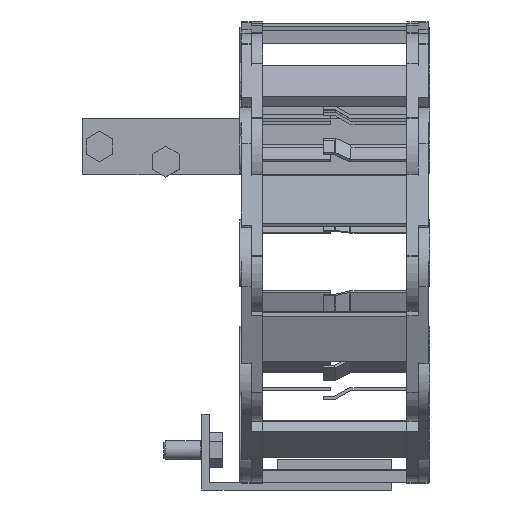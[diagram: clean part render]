
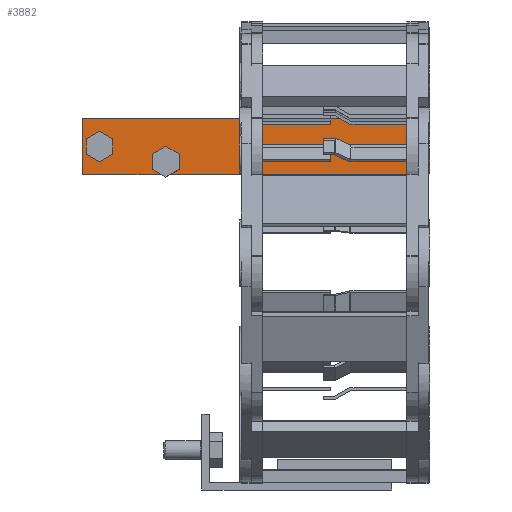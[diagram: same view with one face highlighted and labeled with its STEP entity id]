
A CAD part, left-side view. The second image highlights one B-rep face of the part: STEP entity #3882.
In plain terms, the highlighted planar face has unit normal (-1, 0, 0).
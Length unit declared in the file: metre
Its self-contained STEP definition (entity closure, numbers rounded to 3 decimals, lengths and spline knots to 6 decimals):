
#3882 = ADVANCED_FACE( '', ( #8130, #8131 ), #8132, .F. );
#8130 = FACE_OUTER_BOUND( '', #12796, .T. );
#8131 = FACE_BOUND( '', #12797, .T. );
#8132 = PLANE( '', #12798 );
#12796 = EDGE_LOOP( '', ( #24600, #24601, #24602, #24603, #24604, #24605, #24606, #24607, #24608, #24609, #24610, #24611, #24612 ) );
#12797 = EDGE_LOOP( '', ( #24613, #24614, #24615, #24616, #24617, #24618 ) );
#12798 = AXIS2_PLACEMENT_3D( '', #24619, #24620, #24621 );
#24600 = ORIENTED_EDGE( '', *, *, #29552, .F. );
#24601 = ORIENTED_EDGE( '', *, *, #28814, .F. );
#24602 = ORIENTED_EDGE( '', *, *, #33050, .F. );
#24603 = ORIENTED_EDGE( '', *, *, #28721, .F. );
#24604 = ORIENTED_EDGE( '', *, *, #32338, .F. );
#24605 = ORIENTED_EDGE( '', *, *, #33051, .F. );
#24606 = ORIENTED_EDGE( '', *, *, #33052, .T. );
#24607 = ORIENTED_EDGE( '', *, *, #33053, .T. );
#24608 = ORIENTED_EDGE( '', *, *, #32913, .T. );
#24609 = ORIENTED_EDGE( '', *, *, #32349, .F. );
#24610 = ORIENTED_EDGE( '', *, *, #30315, .F. );
#24611 = ORIENTED_EDGE( '', *, *, #33054, .F. );
#24612 = ORIENTED_EDGE( '', *, *, #33055, .T. );
#24613 = ORIENTED_EDGE( '', *, *, #33056, .F. );
#24614 = ORIENTED_EDGE( '', *, *, #33057, .F. );
#24615 = ORIENTED_EDGE( '', *, *, #28178, .F. );
#24616 = ORIENTED_EDGE( '', *, *, #32992, .F. );
#24617 = ORIENTED_EDGE( '', *, *, #31642, .F. );
#24618 = ORIENTED_EDGE( '', *, *, #31330, .F. );
#24619 = CARTESIAN_POINT( '', ( 0.0755, 0.0855, 0.0685 ) );
#24620 = DIRECTION( '', ( 1., 0., 0. ) );
#24621 = DIRECTION( '', ( 0., 0., -1. ) );
#28178 = EDGE_CURVE( '', #33882, #33883, #33884, .T. );
#28721 = EDGE_CURVE( '', #34866, #34867, #34868, .T. );
#28814 = EDGE_CURVE( '', #35031, #35032, #35033, .T. );
#29552 = EDGE_CURVE( '', #35032, #36322, #36323, .T. );
#30315 = EDGE_CURVE( '', #37564, #37565, #37566, .T. );
#31330 = EDGE_CURVE( '', #39114, #39115, #39116, .T. );
#31642 = EDGE_CURVE( '', #39115, #39555, #39556, .T. );
#32338 = EDGE_CURVE( '', #40496, #34866, #40497, .T. );
#32349 = EDGE_CURVE( '', #37565, #40510, #40511, .T. );
#32913 = EDGE_CURVE( '', #41197, #40510, #41198, .T. );
#32992 = EDGE_CURVE( '', #39555, #33882, #41289, .T. );
#33050 = EDGE_CURVE( '', #34867, #35031, #41354, .T. );
#33051 = EDGE_CURVE( '', #41355, #40496, #41356, .T. );
#33052 = EDGE_CURVE( '', #41355, #41357, #41358, .T. );
#33053 = EDGE_CURVE( '', #41357, #41197, #41359, .F. );
#33054 = EDGE_CURVE( '', #41360, #37564, #41361, .T. );
#33055 = EDGE_CURVE( '', #41360, #36322, #41362, .T. );
#33056 = EDGE_CURVE( '', #41363, #39114, #41364, .T. );
#33057 = EDGE_CURVE( '', #33883, #41363, #41365, .T. );
#33882 = VERTEX_POINT( '', #42309 );
#33883 = VERTEX_POINT( '', #42310 );
#33884 = LINE( '', #42311, #42312 );
#34866 = VERTEX_POINT( '', #43687 );
#34867 = VERTEX_POINT( '', #43688 );
#34868 = LINE( '', #43689, #43690 );
#35031 = VERTEX_POINT( '', #43906 );
#35032 = VERTEX_POINT( '', #43907 );
#35033 = LINE( '', #43908, #43909 );
#36322 = VERTEX_POINT( '', #45650 );
#36323 = LINE( '', #45651, #45652 );
#37564 = VERTEX_POINT( '', #47370 );
#37565 = VERTEX_POINT( '', #47371 );
#37566 = LINE( '', #47372, #47373 );
#39114 = VERTEX_POINT( '', #49557 );
#39115 = VERTEX_POINT( '', #49558 );
#39116 = LINE( '', #49559, #49560 );
#39555 = VERTEX_POINT( '', #50167 );
#39556 = LINE( '', #50168, #50169 );
#40496 = VERTEX_POINT( '', #51530 );
#40497 = LINE( '', #51531, #51532 );
#40510 = VERTEX_POINT( '', #51546 );
#40511 = LINE( '', #51547, #51548 );
#41197 = VERTEX_POINT( '', #52539 );
#41198 = LINE( '', #52540, #52541 );
#41289 = LINE( '', #52663, #52664 );
#41354 = LINE( '', #52757, #52758 );
#41355 = VERTEX_POINT( '', #52759 );
#41356 = LINE( '', #52760, #52761 );
#41357 = VERTEX_POINT( '', #52762 );
#41358 = LINE( '', #52763, #52764 );
#41359 = LINE( '', #52765, #52766 );
#41360 = VERTEX_POINT( '', #52767 );
#41361 = LINE( '', #52768, #52769 );
#41362 = LINE( '', #52770, #52771 );
#41363 = VERTEX_POINT( '', #52772 );
#41364 = LINE( '', #52773, #52774 );
#41365 = LINE( '', #52775, #52776 );
#42309 = CARTESIAN_POINT( '', ( 0.0755, 0.0845, 0.073979 ) );
#42310 = CARTESIAN_POINT( '', ( 0.0755, 0.081, 0.071959 ) );
#42311 = CARTESIAN_POINT( '', ( 0.0755, 0.0845, 0.073979 ) );
#42312 = VECTOR( '', #53780, 1. );
#43687 = CARTESIAN_POINT( '', ( 0.0755, 0.06, 0.074021 ) );
#43688 = CARTESIAN_POINT( '', ( 0.0755, 0.0635, 0.076041 ) );
#43689 = CARTESIAN_POINT( '', ( 0.0755, 0.06, 0.074021 ) );
#43690 = VECTOR( '', #54429, 1. );
#43906 = CARTESIAN_POINT( '', ( 0.0755, 0.067, 0.074021 ) );
#43907 = CARTESIAN_POINT( '', ( 0.0755, 0.067, 0.069979 ) );
#43908 = CARTESIAN_POINT( '', ( 0.0755, 0.067, 0.074021 ) );
#43909 = VECTOR( '', #54555, 1. );
#45650 = CARTESIAN_POINT( '', ( 0.0755, 0.064438, 0.0685 ) );
#45651 = CARTESIAN_POINT( '', ( 0.0755, 0.067, 0.069979 ) );
#45652 = VECTOR( '', #55494, 1. );
#47370 = CARTESIAN_POINT( '', ( 0.0755, 0.0855, 0.0835 ) );
#47371 = CARTESIAN_POINT( '', ( 0.0755, 0.044, 0.0835 ) );
#47372 = CARTESIAN_POINT( '', ( 0.0755, 0.0855, 0.0835 ) );
#47373 = VECTOR( '', #56392, 1. );
#49557 = CARTESIAN_POINT( '', ( 0.0755, 0.0775, 0.078021 ) );
#49558 = CARTESIAN_POINT( '', ( 0.0755, 0.081, 0.080041 ) );
#49559 = CARTESIAN_POINT( '', ( 0.0755, 0.0775, 0.078021 ) );
#49560 = VECTOR( '', #57527, 1. );
#50167 = CARTESIAN_POINT( '', ( 0.0755, 0.0845, 0.078021 ) );
#50168 = CARTESIAN_POINT( '', ( 0.0755, 0.081, 0.080041 ) );
#50169 = VECTOR( '', #57915, 1. );
#51530 = CARTESIAN_POINT( '', ( 0.0755, 0.06, 0.069979 ) );
#51531 = CARTESIAN_POINT( '', ( 0.0755, 0.06, 0.069979 ) );
#51532 = VECTOR( '', #58667, 1. );
#51546 = CARTESIAN_POINT( '', ( 0.0755, -0.006, 0.0835 ) );
#51547 = CARTESIAN_POINT( '', ( 0.0755, 0.0855, 0.0835 ) );
#51548 = VECTOR( '', #58684, 1. );
#52539 = CARTESIAN_POINT( '', ( 0.0755, -0.006, 0.0735 ) );
#52540 = CARTESIAN_POINT( '', ( 0.0755, -0.006, 0.0685 ) );
#52541 = VECTOR( '', #59245, 1. );
#52663 = CARTESIAN_POINT( '', ( 0.0755, 0.0845, 0.078021 ) );
#52664 = VECTOR( '', #59319, 1. );
#52757 = CARTESIAN_POINT( '', ( 0.0755, 0.0635, 0.076041 ) );
#52758 = VECTOR( '', #59366, 1. );
#52759 = CARTESIAN_POINT( '', ( 0.0755, 0.062562, 0.0685 ) );
#52760 = CARTESIAN_POINT( '', ( 0.0755, 0.0635, 0.067959 ) );
#52761 = VECTOR( '', #59367, 1. );
#52762 = CARTESIAN_POINT( '', ( 0.0755, -0.001, 0.0685 ) );
#52763 = CARTESIAN_POINT( '', ( 0.0755, 0.0855, 0.0685 ) );
#52764 = VECTOR( '', #59368, 1. );
#52765 = CARTESIAN_POINT( '', ( 0.0755, -0.001, 0.0685 ) );
#52766 = VECTOR( '', #59369, 1. );
#52767 = CARTESIAN_POINT( '', ( 0.0755, 0.0855, 0.0685 ) );
#52768 = CARTESIAN_POINT( '', ( 0.0755, 0.0855, 0.0685 ) );
#52769 = VECTOR( '', #59370, 1. );
#52770 = CARTESIAN_POINT( '', ( 0.0755, 0.0855, 0.0685 ) );
#52771 = VECTOR( '', #59371, 1. );
#52772 = CARTESIAN_POINT( '', ( 0.0755, 0.0775, 0.073979 ) );
#52773 = CARTESIAN_POINT( '', ( 0.0755, 0.0775, 0.073979 ) );
#52774 = VECTOR( '', #59372, 1. );
#52775 = CARTESIAN_POINT( '', ( 0.0755, 0.081, 0.071959 ) );
#52776 = VECTOR( '', #59373, 1. );
#53780 = DIRECTION( '', ( 0., -0.866, -0.5 ) );
#54429 = DIRECTION( '', ( 0., 0.866, 0.5 ) );
#54555 = DIRECTION( '', ( 0., 0., -1. ) );
#55494 = DIRECTION( '', ( 0., -0.866, -0.5 ) );
#56392 = DIRECTION( '', ( 0., -1., 0. ) );
#57527 = DIRECTION( '', ( 0., 0.866, 0.5 ) );
#57915 = DIRECTION( '', ( 0., 0.866, -0.5 ) );
#58667 = DIRECTION( '', ( 0., 0., 1. ) );
#58684 = DIRECTION( '', ( 0., -1., 0. ) );
#59245 = DIRECTION( '', ( 0., 0., 1. ) );
#59319 = DIRECTION( '', ( 0., 0., -1. ) );
#59366 = DIRECTION( '', ( 0., 0.866, -0.5 ) );
#59367 = DIRECTION( '', ( 0., -0.866, 0.5 ) );
#59368 = DIRECTION( '', ( 0., -1., 0. ) );
#59369 = DIRECTION( '', ( 0., 0.707, -0.707 ) );
#59370 = DIRECTION( '', ( 0., 0., 1. ) );
#59371 = DIRECTION( '', ( 0., -1., 0. ) );
#59372 = DIRECTION( '', ( 0., 0., 1. ) );
#59373 = DIRECTION( '', ( 0., -0.866, 0.5 ) );
